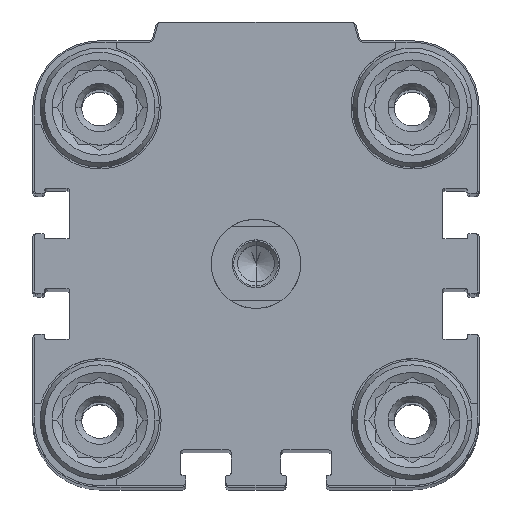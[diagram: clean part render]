
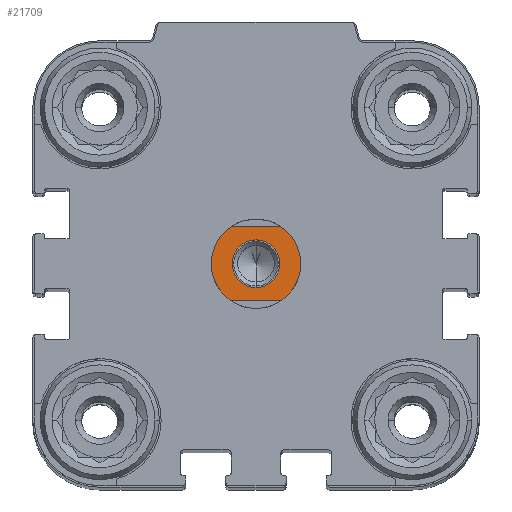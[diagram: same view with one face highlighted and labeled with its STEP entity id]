
A CAD part, top view. The second image highlights one B-rep face of the part: STEP entity #21709.
In plain terms, the highlighted planar face has unit normal (0, 0, 1).
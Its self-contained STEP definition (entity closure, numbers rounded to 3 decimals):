
#241 = EDGE_CURVE ( 'NONE', #17184, #2734, #11030, .T. ) ;
#398 = CIRCLE ( 'NONE', #9920, 6. ) ;
#613 = VERTEX_POINT ( 'NONE', #9636 ) ;
#641 = CARTESIAN_POINT ( 'NONE',  ( 0., 0., 6.5 ) ) ;
#815 = DIRECTION ( 'NONE',  ( -1., 0., 0. ) ) ;
#833 = CARTESIAN_POINT ( 'NONE',  ( -3.317, -5., 6.5 ) ) ;
#926 = DIRECTION ( 'NONE',  ( -1., 0., 0. ) ) ;
#1533 = CIRCLE ( 'NONE', #2644, 3.2 ) ;
#1637 = ORIENTED_EDGE ( 'NONE', *, *, #5167, .F. ) ;
#1828 = CARTESIAN_POINT ( 'NONE',  ( -6., 0., 6.5 ) ) ;
#2444 = CARTESIAN_POINT ( 'NONE',  ( 3.317, -5., 6.5 ) ) ;
#2469 = DIRECTION ( 'NONE',  ( 0., 1., 0. ) ) ;
#2644 = AXIS2_PLACEMENT_3D ( 'NONE', #641, #21325, #2469 ) ;
#2734 = VERTEX_POINT ( 'NONE', #16554 ) ;
#3143 = VERTEX_POINT ( 'NONE', #2444 ) ;
#3417 = AXIS2_PLACEMENT_3D ( 'NONE', #20582, #7121, #13746 ) ;
#3447 = FACE_BOUND ( 'NONE', #4296, .T. ) ;
#3749 = VERTEX_POINT ( 'NONE', #14218 ) ;
#4296 = EDGE_LOOP ( 'NONE', ( #12614, #18418 ) ) ;
#4846 = DIRECTION ( 'NONE',  ( 0., 0., -1. ) ) ;
#5167 = EDGE_CURVE ( 'NONE', #2734, #3749, #22463, .T. ) ;
#5512 = VERTEX_POINT ( 'NONE', #833 ) ;
#7121 = DIRECTION ( 'NONE',  ( 0., 0., -1. ) ) ;
#7222 = CARTESIAN_POINT ( 'NONE',  ( 0., 0., 6.5 ) ) ;
#7937 = CARTESIAN_POINT ( 'NONE',  ( 0., -3.2, 6.5 ) ) ;
#8285 = EDGE_CURVE ( 'NONE', #613, #20298, #8401, .T. ) ;
#8401 = CIRCLE ( 'NONE', #13163, 3.2 ) ;
#8632 = VERTEX_POINT ( 'NONE', #1828 ) ;
#8908 = EDGE_CURVE ( 'NONE', #5512, #8632, #398, .T. ) ;
#9277 = CIRCLE ( 'NONE', #11494, 6. ) ;
#9386 = DIRECTION ( 'NONE',  ( 0., 0., -1. ) ) ;
#9636 = CARTESIAN_POINT ( 'NONE',  ( 0., 3.2, 6.5 ) ) ;
#9727 = ORIENTED_EDGE ( 'NONE', *, *, #241, .F. ) ;
#9920 = AXIS2_PLACEMENT_3D ( 'NONE', #21933, #18747, #926 ) ;
#10207 = DIRECTION ( 'NONE',  ( 0., 0., -1. ) ) ;
#10321 = EDGE_CURVE ( 'NONE', #8632, #17184, #20088, .T. ) ;
#10488 = DIRECTION ( 'NONE',  ( 0., 1., 0. ) ) ;
#11030 = LINE ( 'NONE', #14553, #14150 ) ;
#11494 = AXIS2_PLACEMENT_3D ( 'NONE', #7222, #9386, #17727 ) ;
#11823 = DIRECTION ( 'NONE',  ( -1., 0., 0. ) ) ;
#12194 = CARTESIAN_POINT ( 'NONE',  ( -3.317, 5., 6.5 ) ) ;
#12614 = ORIENTED_EDGE ( 'NONE', *, *, #8285, .T. ) ;
#12815 = AXIS2_PLACEMENT_3D ( 'NONE', #18877, #4846, #11823 ) ;
#12871 = ORIENTED_EDGE ( 'NONE', *, *, #20825, .F. ) ;
#12944 = CARTESIAN_POINT ( 'NONE',  ( 10., -5., 6.5 ) ) ;
#13163 = AXIS2_PLACEMENT_3D ( 'NONE', #17105, #15733, #10488 ) ;
#13640 = FACE_OUTER_BOUND ( 'NONE', #19420, .T. ) ;
#13653 = ORIENTED_EDGE ( 'NONE', *, *, #20587, .F. ) ;
#13746 = DIRECTION ( 'NONE',  ( 0., 1., 0. ) ) ;
#14150 = VECTOR ( 'NONE', #17991, 1000. ) ;
#14218 = CARTESIAN_POINT ( 'NONE',  ( 6., 0., 6.5 ) ) ;
#14553 = CARTESIAN_POINT ( 'NONE',  ( -10., 5., 6.5 ) ) ;
#15189 = AXIS2_PLACEMENT_3D ( 'NONE', #22313, #10207, #15243 ) ;
#15243 = DIRECTION ( 'NONE',  ( -1., 0., 0. ) ) ;
#15483 = VECTOR ( 'NONE', #815, 1000. ) ;
#15572 = PLANE ( 'NONE',  #3417 ) ;
#15733 = DIRECTION ( 'NONE',  ( 0., 0., -1. ) ) ;
#16554 = CARTESIAN_POINT ( 'NONE',  ( 3.317, 5., 6.5 ) ) ;
#16871 = EDGE_CURVE ( 'NONE', #20298, #613, #1533, .T. ) ;
#17105 = CARTESIAN_POINT ( 'NONE',  ( 0., 0., 6.5 ) ) ;
#17184 = VERTEX_POINT ( 'NONE', #12194 ) ;
#17727 = DIRECTION ( 'NONE',  ( -1., 0., 0. ) ) ;
#17991 = DIRECTION ( 'NONE',  ( 1., 0., 0. ) ) ;
#18418 = ORIENTED_EDGE ( 'NONE', *, *, #16871, .T. ) ;
#18577 = ORIENTED_EDGE ( 'NONE', *, *, #8908, .F. ) ;
#18747 = DIRECTION ( 'NONE',  ( 0., 0., -1. ) ) ;
#18877 = CARTESIAN_POINT ( 'NONE',  ( 0., 0., 6.5 ) ) ;
#19420 = EDGE_LOOP ( 'NONE', ( #9727, #21184, #18577, #12871, #13653, #1637 ) ) ;
#20088 = CIRCLE ( 'NONE', #12815, 6. ) ;
#20298 = VERTEX_POINT ( 'NONE', #7937 ) ;
#20582 = CARTESIAN_POINT ( 'NONE',  ( 0., 0., 6.5 ) ) ;
#20587 = EDGE_CURVE ( 'NONE', #3749, #3143, #9277, .T. ) ;
#20825 = EDGE_CURVE ( 'NONE', #3143, #5512, #21598, .T. ) ;
#21184 = ORIENTED_EDGE ( 'NONE', *, *, #10321, .F. ) ;
#21325 = DIRECTION ( 'NONE',  ( 0., 0., -1. ) ) ;
#21598 = LINE ( 'NONE', #12944, #15483 ) ;
#21709 = ADVANCED_FACE ( 'NONE', ( #13640, #3447 ), #15572, .F. ) ;
#21933 = CARTESIAN_POINT ( 'NONE',  ( 0., 0., 6.5 ) ) ;
#22313 = CARTESIAN_POINT ( 'NONE',  ( 0., 0., 6.5 ) ) ;
#22463 = CIRCLE ( 'NONE', #15189, 6. ) ;
